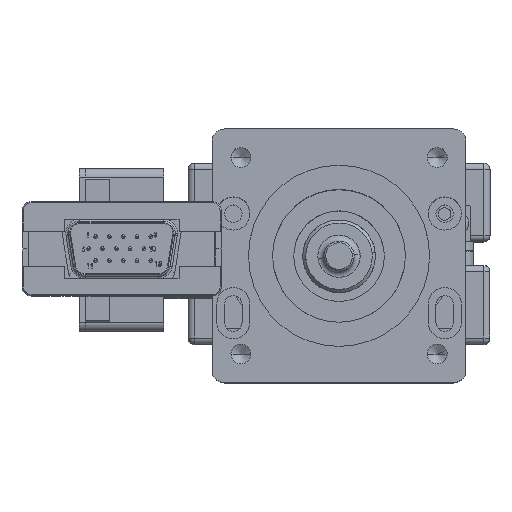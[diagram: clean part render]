
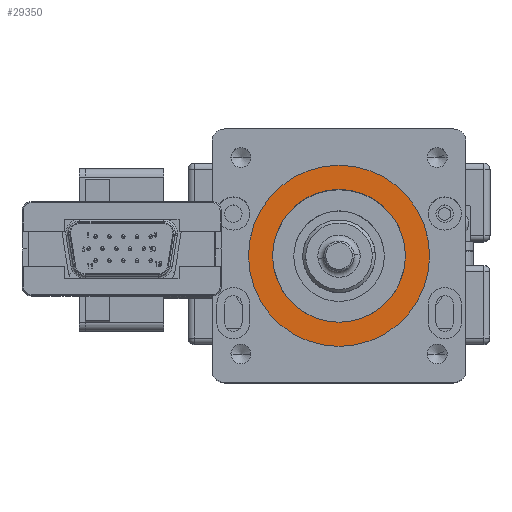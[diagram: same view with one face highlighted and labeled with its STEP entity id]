
A CAD part, top view. The second image highlights one B-rep face of the part: STEP entity #29350.
In plain terms, the highlighted planar face has unit normal (0, 0, 1).
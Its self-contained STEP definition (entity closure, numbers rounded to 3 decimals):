
#12017 = DIRECTION ( 'NONE',  ( 0., 0., 1. ) ) ;
#13643 = CARTESIAN_POINT ( 'NONE',  ( 0., 0., 36.5 ) ) ;
#14328 = VERTEX_POINT ( 'NONE', #101012 ) ;
#22210 = VERTEX_POINT ( 'NONE', #82564 ) ;
#24561 = DIRECTION ( 'NONE',  ( 1., 0., 0. ) ) ;
#25263 = AXIS2_PLACEMENT_3D ( 'NONE', #68421, #12017, #123899 ) ;
#25661 = CIRCLE ( 'NONE', #40352, 15. ) ;
#29350 = ADVANCED_FACE ( 'NONE', ( #110221, #106654 ), #80290, .T. ) ;
#31095 = EDGE_CURVE ( 'NONE', #22210, #163031, #25661, .T. ) ;
#33099 = AXIS2_PLACEMENT_3D ( 'NONE', #13643, #163786, #24561 ) ;
#39939 = AXIS2_PLACEMENT_3D ( 'NONE', #176462, #81819, #109962 ) ;
#40352 = AXIS2_PLACEMENT_3D ( 'NONE', #133526, #88154, #143571 ) ;
#50420 = ORIENTED_EDGE ( 'NONE', *, *, #149254, .T. ) ;
#53808 = EDGE_CURVE ( 'NONE', #93390, #14328, #143585, .T. ) ;
#68421 = CARTESIAN_POINT ( 'NONE',  ( 0., 0., 36.5 ) ) ;
#73549 = ORIENTED_EDGE ( 'NONE', *, *, #53808, .T. ) ;
#80290 = PLANE ( 'NONE',  #25263 ) ;
#81819 = DIRECTION ( 'NONE',  ( 0., 0., -1. ) ) ;
#82564 = CARTESIAN_POINT ( 'NONE',  ( -15., 0., 36.5 ) ) ;
#88154 = DIRECTION ( 'NONE',  ( 0., 0., 1. ) ) ;
#93390 = VERTEX_POINT ( 'NONE', #120989 ) ;
#94071 = CIRCLE ( 'NONE', #99782, 15. ) ;
#99782 = AXIS2_PLACEMENT_3D ( 'NONE', #100155, #114726, #170221 ) ;
#100155 = CARTESIAN_POINT ( 'NONE',  ( 0., 0., 36.5 ) ) ;
#101012 = CARTESIAN_POINT ( 'NONE',  ( -11., 0., 36.5 ) ) ;
#105712 = EDGE_LOOP ( 'NONE', ( #163009, #159542 ) ) ;
#106654 = FACE_BOUND ( 'NONE', #143747, .T. ) ;
#109962 = DIRECTION ( 'NONE',  ( 1., 0., 0. ) ) ;
#110221 = FACE_OUTER_BOUND ( 'NONE', #105712, .T. ) ;
#114726 = DIRECTION ( 'NONE',  ( 0., 0., 1. ) ) ;
#120989 = CARTESIAN_POINT ( 'NONE',  ( 11., 0., 36.5 ) ) ;
#123899 = DIRECTION ( 'NONE',  ( 1., 0., 0. ) ) ;
#133526 = CARTESIAN_POINT ( 'NONE',  ( 0., 0., 36.5 ) ) ;
#143571 = DIRECTION ( 'NONE',  ( 1., 0., 0. ) ) ;
#143585 = CIRCLE ( 'NONE', #33099, 11. ) ;
#143747 = EDGE_LOOP ( 'NONE', ( #73549, #50420 ) ) ;
#149254 = EDGE_CURVE ( 'NONE', #14328, #93390, #159027, .T. ) ;
#159027 = CIRCLE ( 'NONE', #39939, 11. ) ;
#159542 = ORIENTED_EDGE ( 'NONE', *, *, #31095, .T. ) ;
#163009 = ORIENTED_EDGE ( 'NONE', *, *, #172301, .T. ) ;
#163031 = VERTEX_POINT ( 'NONE', #174332 ) ;
#163786 = DIRECTION ( 'NONE',  ( 0., 0., -1. ) ) ;
#170221 = DIRECTION ( 'NONE',  ( 1., 0., 0. ) ) ;
#172301 = EDGE_CURVE ( 'NONE', #163031, #22210, #94071, .T. ) ;
#174332 = CARTESIAN_POINT ( 'NONE',  ( 15., 0., 36.5 ) ) ;
#176462 = CARTESIAN_POINT ( 'NONE',  ( 0., 0., 36.5 ) ) ;
